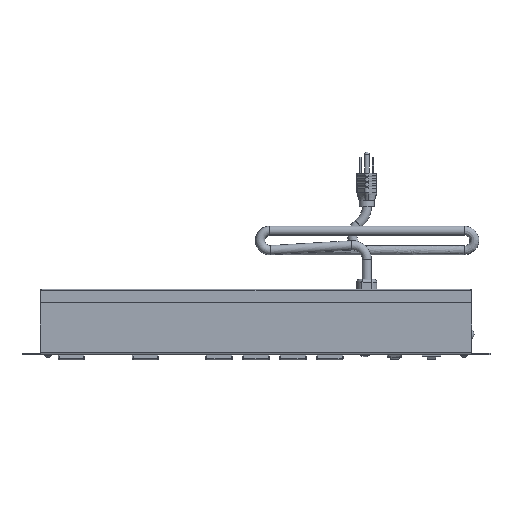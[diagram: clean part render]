
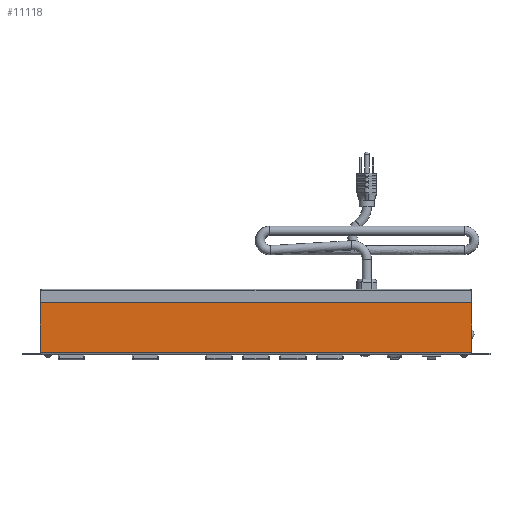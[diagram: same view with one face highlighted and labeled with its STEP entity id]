
A CAD part, front view. The second image highlights one B-rep face of the part: STEP entity #11118.
In plain terms, the highlighted planar face has unit normal (0, -1, 0).
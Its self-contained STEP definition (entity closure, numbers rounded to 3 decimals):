
#1234=FACE_OUTER_BOUND('',#1866,.T.);
#1866=EDGE_LOOP('',(#7711,#7712,#7713,#7714));
#2666=LINE('',#16016,#3745);
#2671=LINE('',#16029,#3750);
#2678=LINE('',#16045,#3757);
#2680=LINE('',#16048,#3759);
#3745=VECTOR('',#13090,10.);
#3750=VECTOR('',#13101,1.699);
#3757=VECTOR('',#13120,10.);
#3759=VECTOR('',#13124,10.);
#4791=VERTEX_POINT('',#16014);
#4792=VERTEX_POINT('',#16015);
#4797=VERTEX_POINT('',#16027);
#4800=VERTEX_POINT('',#16044);
#5924=EDGE_CURVE('',#4791,#4792,#2666,.T.);
#5931=EDGE_CURVE('',#4797,#4792,#2671,.T.);
#5940=EDGE_CURVE('',#4791,#4800,#2678,.T.);
#5942=EDGE_CURVE('',#4800,#4797,#2680,.T.);
#7711=ORIENTED_EDGE('',*,*,#5924,.T.);
#7712=ORIENTED_EDGE('',*,*,#5931,.F.);
#7713=ORIENTED_EDGE('',*,*,#5942,.F.);
#7714=ORIENTED_EDGE('',*,*,#5940,.F.);
#10743=PLANE('',#11958);
#11118=ADVANCED_FACE('',(#1234),#10743,.F.);
#11958=AXIS2_PLACEMENT_3D('',#16049,#13125,#13126);
#13090=DIRECTION('',(1.,0.,0.));
#13101=DIRECTION('',(0.,0.,-1.));
#13120=DIRECTION('',(0.,0.,1.));
#13124=DIRECTION('',(1.,0.,0.));
#13125=DIRECTION('center_axis',(0.,1.,0.));
#13126=DIRECTION('ref_axis',(1.,0.,0.));
#16014=CARTESIAN_POINT('',(-222.25,-21.819,2.588));
#16015=CARTESIAN_POINT('',(222.25,-21.819,2.588));
#16016=CARTESIAN_POINT('',(0.,-21.819,2.588));
#16027=CARTESIAN_POINT('',(222.25,-21.819,53.975));
#16029=CARTESIAN_POINT('',(222.25,-21.819,-2.748));
#16044=CARTESIAN_POINT('',(-222.25,-21.819,53.975));
#16045=CARTESIAN_POINT('',(-222.25,-21.819,2.588));
#16048=CARTESIAN_POINT('',(-222.25,-21.819,53.975));
#16049=CARTESIAN_POINT('Origin',(0.,-21.819,26.947));
